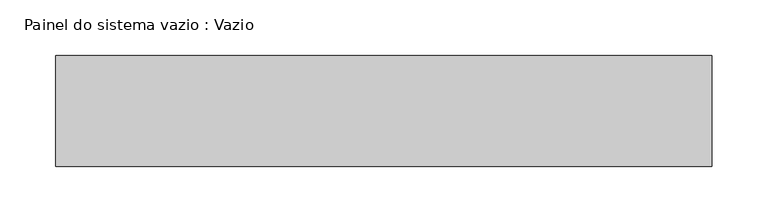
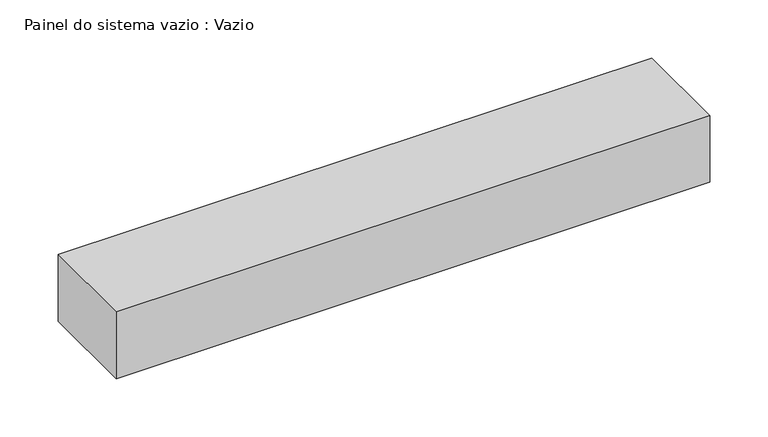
"""IFC4 building model written with IfcOpenShell, lengths in millimetres: plate geometry, Painel do sistema vazio : Vazio."""

from ifc_helpers import new_model, si_unit, origin, origin_with_axes, place, context, project, spatial, polyline, outline, extrude, source, transform, mapped, element, save


def painel_do_sistema_vazio_vazio_9b44381c(model_context):
    return source(origin(), model_context, "Body", "SweptSolid", [
        extrude(outline(polyline([(295.6138553, -50.0), (-295.6138553, -50.0), (-295.6138553, 50.0), (295.6138553, 50.0), (295.6138553, -50.0)])), origin_with_axes(), (0.0, 0.0, 1.0), 70.2984937),
    ])


if __name__ == "__main__":
    model = new_model("IFC4")
    model_context = context("Model", 3, world=origin())
    ifc_project = project(units=[si_unit("LENGTHUNIT", "METRE", prefix="MILLI")], contexts=[model_context])
    site = spatial("IfcSite", under=ifc_project)
    building = spatial("IfcBuilding", under=site)
    placement = place(None, origin())
    painel_do_sistema_vazio_vazio_shape = painel_do_sistema_vazio_vazio_9b44381c(model_context)
    element("IfcPlate", 1, ObjectType="Painel do sistema vazio : Vazio", at=placement, inside=building, context=model_context, shape_type="MappedRepresentation", body=[
        mapped(painel_do_sistema_vazio_vazio_shape, transform((0.0, 0.0, 0.0), x_axis=(1.0, 0.0, 0.0), y_axis=(0.0, 1.0, 0.0), z_axis=(0.0, 0.0, 1.0))),
    ])
    save(model, "model.ifc")
